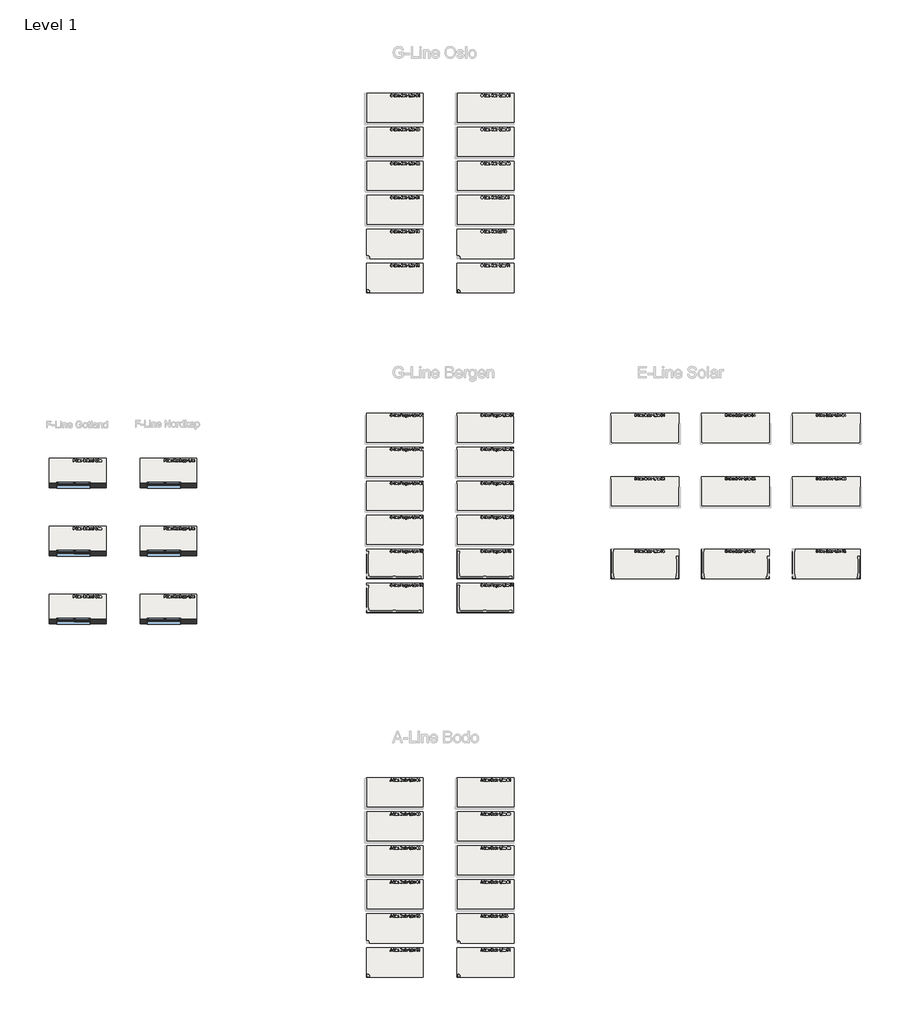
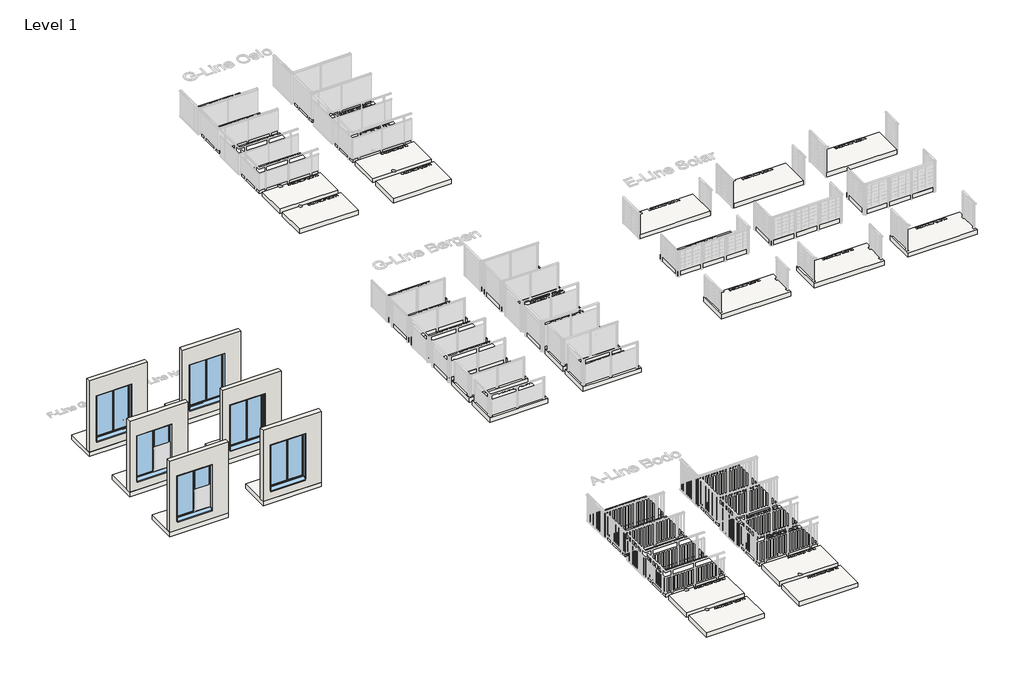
# One storey, part 1 of 66: 51 slabs, 6 walls, 6 windows.
"""IFC4 building model written with IfcOpenShell, lengths in millimetres."""

from ifc_helpers import new_model, si_unit, frame, origin, place, context, project, spatial, polyline, outline, extrude, faceted_brep, transform, mapped, element, save
from components import window_130mm_3dce3136

model = new_model("IFC4")

# Units and contexts
model_context = context("Model", 3, world=origin())
ifc_project = project(units=[si_unit("LENGTHUNIT", "METRE", prefix="MILLI")], contexts=[model_context])

# Site, building, storey
site = spatial("IfcSite", under=ifc_project)
building = spatial("IfcBuilding", under=site)
storey = spatial("IfcBuildingStorey", under=building, Name="Level 1", Elevation=0.0)

# Slabs
placement = place(None, origin())
element("IfcSlab", 1, ObjectType="Generic Floor - 400mm", at=placement, inside=storey, context=model_context, shape_type="SweptSolid", body=[
    extrude(outline(polyline([(6996.5263105, -4481.1184021), (4496.5263105, -4481.1184021), (4496.5263105, -3181.1184021), (6996.5263105, -3181.1184021), (6996.5263105, -4481.1184021)])), frame((0.0, 0.0, -200.0), z_axis=(0.0, 0.0, 1.0), x_axis=(1.0, 0.0, 0.0)), (0.0, 0.0, 1.0), 200.0),
])
element("IfcSlab", 2, ObjectType="Generic Floor - 400mm", at=placement, inside=storey, context=model_context, shape_type="SweptSolid", body=[
    extrude(outline(polyline([(6996.5263105, -2981.1184021), (4496.5263105, -2981.1184021), (4496.5263105, -1681.1184021), (6996.5263105, -1681.1184021), (6996.5263105, -2981.1184021)])), frame((0.0, 0.0, -200.0), z_axis=(0.0, 0.0, 1.0), x_axis=(1.0, 0.0, 0.0)), (0.0, 0.0, 1.0), 200.0),
])
element("IfcSlab", 3, ObjectType="Generic Floor - 400mm", at=placement, inside=storey, context=model_context, shape_type="SweptSolid", body=[
    extrude(outline(polyline([(6996.5263105, -1481.1184021), (4496.5263105, -1481.1184021), (4496.5263105, -181.1184021), (6996.5263105, -181.1184021), (6996.5263105, -1481.1184021)])), frame((0.0, 0.0, -200.0), z_axis=(0.0, 0.0, 1.0), x_axis=(1.0, 0.0, 0.0)), (0.0, 0.0, 1.0), 200.0),
])
element("IfcSlab", 4, ObjectType="Generic Floor - 400mm", at=placement, inside=storey, context=model_context, shape_type="SweptSolid", body=[
    extrude(outline(polyline([(6996.5263105, 18.8815979), (4496.5263105, 18.8815979), (4496.5263105, 1318.8815979), (6996.5263105, 1318.8815979), (6996.5263105, 18.8815979)])), frame((0.0, 0.0, -200.0), z_axis=(0.0, 0.0, 1.0), x_axis=(1.0, 0.0, 0.0)), (0.0, 0.0, 1.0), 200.0),
])
element("IfcSlab", 5, ObjectType="Generic Floor - 400mm", at=placement, inside=storey, context=model_context, shape_type="SweptSolid", body=[
    extrude(outline(polyline([(6996.5263105, 1518.8815979), (4496.5263105, 1518.8815979), (4496.5263105, 2818.8815979), (6996.5263105, 2818.8815979), (6996.5263105, 1518.8815979)])), frame((0.0, 0.0, -200.0), z_axis=(0.0, 0.0, 1.0), x_axis=(1.0, 0.0, 0.0)), (0.0, 0.0, 1.0), 200.0),
])
element("IfcSlab", 6, ObjectType="Generic Floor - 400mm", at=placement, inside=storey, context=model_context, shape_type="SweptSolid", body=[
    extrude(outline(polyline([(6996.5263105, 3018.8815979), (4496.5263105, 3018.8815979), (4496.5263105, 4318.8815979), (6996.5263105, 4318.8815979), (6996.5263105, 3018.8815979)])), frame((0.0, 0.0, -200.0), z_axis=(0.0, 0.0, 1.0), x_axis=(1.0, 0.0, 0.0)), (0.0, 0.0, 1.0), 200.0),
])
element("IfcSlab", 7, ObjectType="Generic Floor - 400mm", at=placement, inside=storey, context=model_context, shape_type="SweptSolid", body=[
    extrude(outline(polyline([(10996.5263105, -4481.1184021), (8496.5263105, -4481.1184021), (8496.5263105, -3181.1184021), (10996.5263105, -3181.1184021), (10996.5263105, -4481.1184021)])), frame((0.0, 0.0, -200.0), z_axis=(0.0, 0.0, 1.0), x_axis=(1.0, 0.0, 0.0)), (0.0, 0.0, 1.0), 200.0),
])
element("IfcSlab", 8, ObjectType="Generic Floor - 400mm", at=placement, inside=storey, context=model_context, shape_type="SweptSolid", body=[
    extrude(outline(polyline([(10996.5263105, -2981.1184021), (8496.5263105, -2981.1184021), (8496.5263105, -1681.1184021), (10996.5263105, -1681.1184021), (10996.5263105, -2981.1184021)])), frame((0.0, 0.0, -200.0), z_axis=(0.0, 0.0, 1.0), x_axis=(1.0, 0.0, 0.0)), (0.0, 0.0, 1.0), 200.0),
])
element("IfcSlab", 9, ObjectType="Generic Floor - 400mm", at=placement, inside=storey, context=model_context, shape_type="SweptSolid", body=[
    extrude(outline(polyline([(10996.5263105, -1481.1184021), (8496.5263105, -1481.1184021), (8496.5263105, -181.1184021), (10996.5263105, -181.1184021), (10996.5263105, -1481.1184021)])), frame((0.0, 0.0, -200.0), z_axis=(0.0, 0.0, 1.0), x_axis=(1.0, 0.0, 0.0)), (0.0, 0.0, 1.0), 200.0),
])
element("IfcSlab", 10, ObjectType="Generic Floor - 400mm", at=placement, inside=storey, context=model_context, shape_type="SweptSolid", body=[
    extrude(outline(polyline([(10996.5263105, 18.8815979), (8496.5263105, 18.8815979), (8496.5263105, 1318.8815979), (10996.5263105, 1318.8815979), (10996.5263105, 18.8815979)])), frame((0.0, 0.0, -200.0), z_axis=(0.0, 0.0, 1.0), x_axis=(1.0, 0.0, 0.0)), (0.0, 0.0, 1.0), 200.0),
])
element("IfcSlab", 11, ObjectType="Generic Floor - 400mm", at=placement, inside=storey, context=model_context, shape_type="SweptSolid", body=[
    extrude(outline(polyline([(10996.5263105, 1518.8815979), (8496.5263105, 1518.8815979), (8496.5263105, 2818.8815979), (10996.5263105, 2818.8815979), (10996.5263105, 1518.8815979)])), frame((0.0, 0.0, -200.0), z_axis=(0.0, 0.0, 1.0), x_axis=(1.0, 0.0, 0.0)), (0.0, 0.0, 1.0), 200.0),
])
element("IfcSlab", 12, ObjectType="Generic Floor - 400mm", at=placement, inside=storey, context=model_context, shape_type="SweptSolid", body=[
    extrude(outline(polyline([(10996.5263105, 3018.8815979), (8496.5263105, 3018.8815979), (8496.5263105, 4318.8815979), (10996.5263105, 4318.8815979), (10996.5263105, 3018.8815979)])), frame((0.0, 0.0, -200.0), z_axis=(0.0, 0.0, 1.0), x_axis=(1.0, 0.0, 0.0)), (0.0, 0.0, 1.0), 200.0),
])
element("IfcSlab", 13, ObjectType="Generic Floor - 400mm", at=placement, inside=storey, context=model_context, shape_type="SweptSolid", body=[
    extrude(outline(polyline([(-6994.9452678, -4969.7113559), (-9494.9452678, -4969.7113559), (-9494.9452678, -3669.7113559), (-6994.9452678, -3669.7113559), (-6994.9452678, -4969.7113559)])), frame((0.0, 0.0, -200.0), z_axis=(0.0, 0.0, 1.0), x_axis=(1.0, 0.0, 0.0)), (0.0, 0.0, 1.0), 200.0),
])
element("IfcSlab", 14, ObjectType="Generic Floor - 400mm", at=placement, inside=storey, context=model_context, shape_type="SweptSolid", body=[
    extrude(outline(polyline([(-6994.9452678, -1969.7113559), (-9494.9452678, -1969.7113559), (-9494.9452678, -669.7113559), (-6994.9452678, -669.7113559), (-6994.9452678, -1969.7113559)])), frame((0.0, 0.0, -200.0), z_axis=(0.0, 0.0, 1.0), x_axis=(1.0, 0.0, 0.0)), (0.0, 0.0, 1.0), 200.0),
])
element("IfcSlab", 15, ObjectType="Generic Floor - 400mm", at=placement, inside=storey, context=model_context, shape_type="SweptSolid", body=[
    extrude(outline(polyline([(-6994.9452678, 1030.2886441), (-9494.9452678, 1030.2886441), (-9494.9452678, 2330.2886441), (-6994.9452678, 2330.2886441), (-6994.9452678, 1030.2886441)])), frame((0.0, 0.0, -200.0), z_axis=(0.0, 0.0, 1.0), x_axis=(1.0, 0.0, 0.0)), (0.0, 0.0, 1.0), 200.0),
])
element("IfcSlab", 16, ObjectType="Generic Floor - 400mm", at=placement, inside=storey, context=model_context, shape_type="SweptSolid", body=[
    extrude(outline(polyline([(7004.0547322, 9630.2886441), (4504.0547322, 9630.2886441), (4504.0547322, 10930.2886441), (7004.0547322, 10930.2886441), (7004.0547322, 9630.2886441)])), frame((0.0, 0.0, -200.0), z_axis=(0.0, 0.0, 1.0), x_axis=(1.0, 0.0, 0.0)), (0.0, 0.0, 1.0), 200.0),
])
element("IfcSlab", 17, ObjectType="Generic Floor - 400mm", at=placement, inside=storey, context=model_context, shape_type="SweptSolid", body=[
    extrude(outline(polyline([(7004.0547322, 11130.2886441), (4504.0547322, 11130.2886441), (4504.0547322, 12430.2886441), (7004.0547322, 12430.2886441), (7004.0547322, 11130.2886441)])), frame((0.0, 0.0, -200.0), z_axis=(0.0, 0.0, 1.0), x_axis=(1.0, 0.0, 0.0)), (0.0, 0.0, 1.0), 200.0),
])
element("IfcSlab", 18, ObjectType="Generic Floor - 400mm", at=placement, inside=storey, context=model_context, shape_type="SweptSolid", body=[
    extrude(outline(polyline([(7004.0547322, 12630.2886441), (4504.0547322, 12630.2886441), (4504.0547322, 13930.2886441), (7004.0547322, 13930.2886441), (7004.0547322, 12630.2886441)])), frame((0.0, 0.0, -200.0), z_axis=(0.0, 0.0, 1.0), x_axis=(1.0, 0.0, 0.0)), (0.0, 0.0, 1.0), 200.0),
])
element("IfcSlab", 19, ObjectType="Generic Floor - 400mm", at=placement, inside=storey, context=model_context, shape_type="SweptSolid", body=[
    extrude(outline(polyline([(7004.0547322, 14130.2886441), (4504.0547322, 14130.2886441), (4504.0547322, 15430.2886441), (7004.0547322, 15430.2886441), (7004.0547322, 14130.2886441)])), frame((0.0, 0.0, -200.0), z_axis=(0.0, 0.0, 1.0), x_axis=(1.0, 0.0, 0.0)), (0.0, 0.0, 1.0), 200.0),
])
element("IfcSlab", 20, ObjectType="Generic Floor - 400mm", at=placement, inside=storey, context=model_context, shape_type="SweptSolid", body=[
    extrude(outline(polyline([(7004.0547322, 15630.2886441), (4504.0547322, 15630.2886441), (4504.0547322, 16930.2886441), (7004.0547322, 16930.2886441), (7004.0547322, 15630.2886441)])), frame((0.0, 0.0, -200.0), z_axis=(0.0, 0.0, 1.0), x_axis=(1.0, 0.0, 0.0)), (0.0, 0.0, 1.0), 200.0),
])
element("IfcSlab", 21, ObjectType="Generic Floor - 400mm", at=placement, inside=storey, context=model_context, shape_type="SweptSolid", body=[
    extrude(outline(polyline([(7004.0547322, 17130.2886441), (4504.0547322, 17130.2886441), (4504.0547322, 18430.2886441), (7004.0547322, 18430.2886441), (7004.0547322, 17130.2886441)])), frame((0.0, 0.0, -200.0), z_axis=(0.0, 0.0, 1.0), x_axis=(1.0, 0.0, 0.0)), (0.0, 0.0, 1.0), 200.0),
])
element("IfcSlab", 22, ObjectType="Generic Floor - 400mm", at=placement, inside=storey, context=model_context, shape_type="SweptSolid", body=[
    extrude(outline(polyline([(11004.0547322, 9630.2886441), (8504.0547322, 9630.2886441), (8504.0547322, 10930.2886441), (11004.0547322, 10930.2886441), (11004.0547322, 9630.2886441)])), frame((0.0, 0.0, -200.0), z_axis=(0.0, 0.0, 1.0), x_axis=(1.0, 0.0, 0.0)), (0.0, 0.0, 1.0), 200.0),
])
element("IfcSlab", 23, ObjectType="Generic Floor - 400mm", at=placement, inside=storey, context=model_context, shape_type="SweptSolid", body=[
    extrude(outline(polyline([(11004.0547322, 11130.2886441), (8504.0547322, 11130.2886441), (8504.0547322, 12430.2886441), (11004.0547322, 12430.2886441), (11004.0547322, 11130.2886441)])), frame((0.0, 0.0, -200.0), z_axis=(0.0, 0.0, 1.0), x_axis=(1.0, 0.0, 0.0)), (0.0, 0.0, 1.0), 200.0),
])
element("IfcSlab", 24, ObjectType="Generic Floor - 400mm", at=placement, inside=storey, context=model_context, shape_type="SweptSolid", body=[
    extrude(outline(polyline([(11004.0547322, 12630.2886441), (8504.0547322, 12630.2886441), (8504.0547322, 13930.2886441), (11004.0547322, 13930.2886441), (11004.0547322, 12630.2886441)])), frame((0.0, 0.0, -200.0), z_axis=(0.0, 0.0, 1.0), x_axis=(1.0, 0.0, 0.0)), (0.0, 0.0, 1.0), 200.0),
])
element("IfcSlab", 25, ObjectType="Generic Floor - 400mm", at=placement, inside=storey, context=model_context, shape_type="SweptSolid", body=[
    extrude(outline(polyline([(11004.0547322, 14130.2886441), (8504.0547322, 14130.2886441), (8504.0547322, 15430.2886441), (11004.0547322, 15430.2886441), (11004.0547322, 14130.2886441)])), frame((0.0, 0.0, -200.0), z_axis=(0.0, 0.0, 1.0), x_axis=(1.0, 0.0, 0.0)), (0.0, 0.0, 1.0), 200.0),
])
element("IfcSlab", 26, ObjectType="Generic Floor - 400mm", at=placement, inside=storey, context=model_context, shape_type="SweptSolid", body=[
    extrude(outline(polyline([(11004.0547322, 15630.2886441), (8504.0547322, 15630.2886441), (8504.0547322, 16930.2886441), (11004.0547322, 16930.2886441), (11004.0547322, 15630.2886441)])), frame((0.0, 0.0, -200.0), z_axis=(0.0, 0.0, 1.0), x_axis=(1.0, 0.0, 0.0)), (0.0, 0.0, 1.0), 200.0),
])
element("IfcSlab", 27, ObjectType="Generic Floor - 400mm", at=placement, inside=storey, context=model_context, shape_type="SweptSolid", body=[
    extrude(outline(polyline([(11004.0547322, 17130.2886441), (8504.0547322, 17130.2886441), (8504.0547322, 18430.2886441), (11004.0547322, 18430.2886441), (11004.0547322, 17130.2886441)])), frame((0.0, 0.0, -200.0), z_axis=(0.0, 0.0, 1.0), x_axis=(1.0, 0.0, 0.0)), (0.0, 0.0, 1.0), 200.0),
])
element("IfcSlab", 28, ObjectType="Generic Floor - 400mm", at=placement, inside=storey, context=model_context, shape_type="SweptSolid", body=[
    extrude(outline(polyline([(7004.0547322, -20569.7113559), (4504.0547322, -20569.7113559), (4504.0547322, -19269.7113559), (7004.0547322, -19269.7113559), (7004.0547322, -20569.7113559)])), frame((0.0, 0.0, -200.0), z_axis=(0.0, 0.0, 1.0), x_axis=(1.0, 0.0, 0.0)), (0.0, 0.0, 1.0), 200.0),
])
element("IfcSlab", 29, ObjectType="Generic Floor - 400mm", at=placement, inside=storey, context=model_context, shape_type="SweptSolid", body=[
    extrude(outline(polyline([(7004.0547322, -19069.7113559), (4504.0547322, -19069.7113559), (4504.0547322, -17769.7113559), (7004.0547322, -17769.7113559), (7004.0547322, -19069.7113559)])), frame((0.0, 0.0, -200.0), z_axis=(0.0, 0.0, 1.0), x_axis=(1.0, 0.0, 0.0)), (0.0, 0.0, 1.0), 200.0),
])
element("IfcSlab", 30, ObjectType="Generic Floor - 400mm", at=placement, inside=storey, context=model_context, shape_type="SweptSolid", body=[
    extrude(outline(polyline([(7004.0547322, -17569.7113559), (4504.0547322, -17569.7113559), (4504.0547322, -16269.7113559), (7004.0547322, -16269.7113559), (7004.0547322, -17569.7113559)])), frame((0.0, 0.0, -200.0), z_axis=(0.0, 0.0, 1.0), x_axis=(1.0, 0.0, 0.0)), (0.0, 0.0, 1.0), 200.0),
])
element("IfcSlab", 31, ObjectType="Generic Floor - 400mm", at=placement, inside=storey, context=model_context, shape_type="SweptSolid", body=[
    extrude(outline(polyline([(7004.0547322, -16069.7113559), (4504.0547322, -16069.7113559), (4504.0547322, -14769.7113559), (7004.0547322, -14769.7113559), (7004.0547322, -16069.7113559)])), frame((0.0, 0.0, -200.0), z_axis=(0.0, 0.0, 1.0), x_axis=(1.0, 0.0, 0.0)), (0.0, 0.0, 1.0), 200.0),
])
element("IfcSlab", 32, ObjectType="Generic Floor - 400mm", at=placement, inside=storey, context=model_context, shape_type="SweptSolid", body=[
    extrude(outline(polyline([(7004.0547322, -14569.7113559), (4504.0547322, -14569.7113559), (4504.0547322, -13269.7113559), (7004.0547322, -13269.7113559), (7004.0547322, -14569.7113559)])), frame((0.0, 0.0, -200.0), z_axis=(0.0, 0.0, 1.0), x_axis=(1.0, 0.0, 0.0)), (0.0, 0.0, 1.0), 200.0),
])
element("IfcSlab", 33, ObjectType="Generic Floor - 400mm", at=placement, inside=storey, context=model_context, shape_type="SweptSolid", body=[
    extrude(outline(polyline([(7004.0547322, -13069.7113559), (4504.0547322, -13069.7113559), (4504.0547322, -11769.7113559), (7004.0547322, -11769.7113559), (7004.0547322, -13069.7113559)])), frame((0.0, 0.0, -200.0), z_axis=(0.0, 0.0, 1.0), x_axis=(1.0, 0.0, 0.0)), (0.0, 0.0, 1.0), 200.0),
])
element("IfcSlab", 34, ObjectType="Generic Floor - 400mm", at=placement, inside=storey, context=model_context, shape_type="SweptSolid", body=[
    extrude(outline(polyline([(11004.0547322, -20569.7113559), (8504.0547322, -20569.7113559), (8504.0547322, -19269.7113559), (11004.0547322, -19269.7113559), (11004.0547322, -20569.7113559)])), frame((0.0, 0.0, -200.0), z_axis=(0.0, 0.0, 1.0), x_axis=(1.0, 0.0, 0.0)), (0.0, 0.0, 1.0), 200.0),
])
element("IfcSlab", 35, ObjectType="Generic Floor - 400mm", at=placement, inside=storey, context=model_context, shape_type="SweptSolid", body=[
    extrude(outline(polyline([(11004.0547322, -19069.7113559), (8504.0547322, -19069.7113559), (8504.0547322, -17769.7113559), (11004.0547322, -17769.7113559), (11004.0547322, -19069.7113559)])), frame((0.0, 0.0, -200.0), z_axis=(0.0, 0.0, 1.0), x_axis=(1.0, 0.0, 0.0)), (0.0, 0.0, 1.0), 200.0),
])
element("IfcSlab", 36, ObjectType="Generic Floor - 400mm", at=placement, inside=storey, context=model_context, shape_type="SweptSolid", body=[
    extrude(outline(polyline([(11004.0547322, -17569.7113559), (8504.0547322, -17569.7113559), (8504.0547322, -16269.7113559), (11004.0547322, -16269.7113559), (11004.0547322, -17569.7113559)])), frame((0.0, 0.0, -200.0), z_axis=(0.0, 0.0, 1.0), x_axis=(1.0, 0.0, 0.0)), (0.0, 0.0, 1.0), 200.0),
])
element("IfcSlab", 37, ObjectType="Generic Floor - 400mm", at=placement, inside=storey, context=model_context, shape_type="SweptSolid", body=[
    extrude(outline(polyline([(11004.0547322, -16069.7113559), (8504.0547322, -16069.7113559), (8504.0547322, -14769.7113559), (11004.0547322, -14769.7113559), (11004.0547322, -16069.7113559)])), frame((0.0, 0.0, -200.0), z_axis=(0.0, 0.0, 1.0), x_axis=(1.0, 0.0, 0.0)), (0.0, 0.0, 1.0), 200.0),
])
element("IfcSlab", 38, ObjectType="Generic Floor - 400mm", at=placement, inside=storey, context=model_context, shape_type="SweptSolid", body=[
    extrude(outline(polyline([(11004.0547322, -14569.7113559), (8504.0547322, -14569.7113559), (8504.0547322, -13269.7113559), (11004.0547322, -13269.7113559), (11004.0547322, -14569.7113559)])), frame((0.0, 0.0, -200.0), z_axis=(0.0, 0.0, 1.0), x_axis=(1.0, 0.0, 0.0)), (0.0, 0.0, 1.0), 200.0),
])
element("IfcSlab", 39, ObjectType="Generic Floor - 400mm", at=placement, inside=storey, context=model_context, shape_type="SweptSolid", body=[
    extrude(outline(polyline([(11004.0547322, -13069.7113559), (8504.0547322, -13069.7113559), (8504.0547322, -11769.7113559), (11004.0547322, -11769.7113559), (11004.0547322, -13069.7113559)])), frame((0.0, 0.0, -200.0), z_axis=(0.0, 0.0, 1.0), x_axis=(1.0, 0.0, 0.0)), (0.0, 0.0, 1.0), 200.0),
])
element("IfcSlab", 40, ObjectType="Generic Floor - 400mm", at=placement, inside=storey, context=model_context, shape_type="SweptSolid", body=[
    extrude(outline(polyline([(-2994.9452678, -4969.7113559), (-5494.9452678, -4969.7113559), (-5494.9452678, -3669.7113559), (-2994.9452678, -3669.7113559), (-2994.9452678, -4969.7113559)])), frame((0.0, 0.0, -200.0), z_axis=(0.0, 0.0, 1.0), x_axis=(1.0, 0.0, 0.0)), (0.0, 0.0, 1.0), 200.0),
])
element("IfcSlab", 41, ObjectType="Generic Floor - 400mm", at=placement, inside=storey, context=model_context, shape_type="SweptSolid", body=[
    extrude(outline(polyline([(-2994.9452678, -1969.7113559), (-5494.9452678, -1969.7113559), (-5494.9452678, -669.7113559), (-2994.9452678, -669.7113559), (-2994.9452678, -1969.7113559)])), frame((0.0, 0.0, -200.0), z_axis=(0.0, 0.0, 1.0), x_axis=(1.0, 0.0, 0.0)), (0.0, 0.0, 1.0), 200.0),
])
element("IfcSlab", 42, ObjectType="Generic Floor - 400mm", at=placement, inside=storey, context=model_context, shape_type="SweptSolid", body=[
    extrude(outline(polyline([(-2994.9452678, 1030.2886441), (-5494.9452678, 1030.2886441), (-5494.9452678, 2330.2886441), (-2994.9452678, 2330.2886441), (-2994.9452678, 1030.2886441)])), frame((0.0, 0.0, -200.0), z_axis=(0.0, 0.0, 1.0), x_axis=(1.0, 0.0, 0.0)), (0.0, 0.0, 1.0), 200.0),
])
element("IfcSlab", 43, ObjectType="Generic Floor - 400mm", at=placement, inside=storey, context=model_context, shape_type="SweptSolid", body=[
    extrude(outline(polyline([(18296.5263105, -2981.1184021), (15296.5263105, -2981.1184021), (15296.5263105, -1681.1184021), (18296.5263105, -1681.1184021), (18296.5263105, -2981.1184021)])), frame((0.0, 0.0, -200.0), z_axis=(0.0, 0.0, 1.0), x_axis=(1.0, 0.0, 0.0)), (0.0, 0.0, 1.0), 200.0),
])
element("IfcSlab", 44, ObjectType="Generic Floor - 400mm", at=placement, inside=storey, context=model_context, shape_type="SweptSolid", body=[
    extrude(outline(polyline([(18296.5263105, 218.8815979), (15296.5263105, 218.8815979), (15296.5263105, 1518.8815979), (18296.5263105, 1518.8815979), (18296.5263105, 218.8815979)])), frame((0.0, 0.0, -200.0), z_axis=(0.0, 0.0, 1.0), x_axis=(1.0, 0.0, 0.0)), (0.0, 0.0, 1.0), 200.0),
])
element("IfcSlab", 45, ObjectType="Generic Floor - 400mm", at=placement, inside=storey, context=model_context, shape_type="SweptSolid", body=[
    extrude(outline(polyline([(18296.5263105, 3018.8815979), (15296.5263105, 3018.8815979), (15296.5263105, 4318.8815979), (18296.5263105, 4318.8815979), (18296.5263105, 3018.8815979)])), frame((0.0, 0.0, -200.0), z_axis=(0.0, 0.0, 1.0), x_axis=(1.0, 0.0, 0.0)), (0.0, 0.0, 1.0), 200.0),
])
element("IfcSlab", 46, ObjectType="Generic Floor - 400mm", at=placement, inside=storey, context=model_context, shape_type="SweptSolid", body=[
    extrude(outline(polyline([(26296.5263105, -2981.1184021), (23296.5263105, -2981.1184021), (23296.5263105, -1681.1184021), (26296.5263105, -1681.1184021), (26296.5263105, -2981.1184021)])), frame((0.0, 0.0, -200.0), z_axis=(0.0, 0.0, 1.0), x_axis=(1.0, 0.0, 0.0)), (0.0, 0.0, 1.0), 200.0),
])
element("IfcSlab", 47, ObjectType="Generic Floor - 400mm", at=placement, inside=storey, context=model_context, shape_type="SweptSolid", body=[
    extrude(outline(polyline([(22296.5263105, -2981.1184021), (19296.5263105, -2981.1184021), (19296.5263105, -1681.1184021), (22296.5263105, -1681.1184021), (22296.5263105, -2981.1184021)])), frame((0.0, 0.0, -200.0), z_axis=(0.0, 0.0, 1.0), x_axis=(1.0, 0.0, 0.0)), (0.0, 0.0, 1.0), 200.0),
])
element("IfcSlab", 48, ObjectType="Generic Floor - 400mm", at=placement, inside=storey, context=model_context, shape_type="SweptSolid", body=[
    extrude(outline(polyline([(22296.5263105, 218.8815979), (19296.5263105, 218.8815979), (19296.5263105, 1518.8815979), (22296.5263105, 1518.8815979), (22296.5263105, 218.8815979)])), frame((0.0, 0.0, -200.0), z_axis=(0.0, 0.0, 1.0), x_axis=(1.0, 0.0, 0.0)), (0.0, 0.0, 1.0), 200.0),
])
element("IfcSlab", 49, ObjectType="Generic Floor - 400mm", at=placement, inside=storey, context=model_context, shape_type="SweptSolid", body=[
    extrude(outline(polyline([(22296.5263105, 3018.8815979), (19296.5263105, 3018.8815979), (19296.5263105, 4318.8815979), (22296.5263105, 4318.8815979), (22296.5263105, 3018.8815979)])), frame((0.0, 0.0, -200.0), z_axis=(0.0, 0.0, 1.0), x_axis=(1.0, 0.0, 0.0)), (0.0, 0.0, 1.0), 200.0),
])
element("IfcSlab", 50, ObjectType="Generic Floor - 400mm", at=placement, inside=storey, context=model_context, shape_type="SweptSolid", body=[
    extrude(outline(polyline([(26296.5263105, 218.8815979), (23296.5263105, 218.8815979), (23296.5263105, 1518.8815979), (26296.5263105, 1518.8815979), (26296.5263105, 218.8815979)])), frame((0.0, 0.0, -200.0), z_axis=(0.0, 0.0, 1.0), x_axis=(1.0, 0.0, 0.0)), (0.0, 0.0, 1.0), 200.0),
])
element("IfcSlab", 51, ObjectType="Generic Floor - 400mm", at=placement, inside=storey, context=model_context, shape_type="SweptSolid", body=[
    extrude(outline(polyline([(26296.5263105, 3018.8815979), (23296.5263105, 3018.8815979), (23296.5263105, 4318.8815979), (26296.5263105, 4318.8815979), (26296.5263105, 3018.8815979)])), frame((0.0, 0.0, -200.0), z_axis=(0.0, 0.0, 1.0), x_axis=(1.0, 0.0, 0.0)), (0.0, 0.0, 1.0), 200.0),
])

# Walls
element("IfcWall", 52, ObjectType="Generic - 200mm", at=placement, inside=storey, context=model_context, shape_type="Brep", body=[
    faceted_brep([(-5494.9452678, -4969.7113559, 0.0), (-2994.9452678, -4969.7113559, 0.0), (-2994.9452678, -4969.7113559, 3221.2135591), (-5494.9452678, -4969.7113559, 3221.2135591), (-5194.9452678, -4969.7113559, 2453.1900057), (-3674.9452678, -4969.7113559, 2453.1900057), (-3674.9452678, -4969.7113559, 389.564625), (-5194.9452678, -4969.7113559, 389.564625), (-2994.9452678, -4769.7113559, 0.0), (-5494.9452678, -4769.7113559, 0.0), (-5494.9452678, -4769.7113559, 3221.2135591), (-2994.9452678, -4769.7113559, 3221.2135591), (-3674.9452678, -4769.7113559, 2453.1900057), (-5194.9452678, -4769.7113559, 2453.1900057), (-5194.9452678, -4769.7113559, 443.1900057), (-3674.9452678, -4769.7113559, 443.1900057), (-5194.9452678, -4854.7113559, 443.1900057), (-3674.9452678, -4854.7113559, 443.1900057)], [[[0, 1, 2, 3], [4, 5, 6, 7]], [[8, 9, 10, 11], [12, 13, 14, 15]], [[1, 0, 9, 8]], [[2, 1, 8, 11]], [[3, 2, 11, 10]], [[0, 3, 10, 9]], [[4, 13, 12, 5]], [[16, 17, 15, 14]], [[5, 12, 15, 17, 6]], [[13, 4, 7, 16, 14]], [[17, 16, 7, 6]]]),
])
element("IfcWall", 53, ObjectType="Generic - 200mm", at=placement, inside=storey, context=model_context, shape_type="Brep", body=[
    faceted_brep([(-9494.9452678, -4969.7113559, 0.0), (-6994.9452678, -4969.7113559, 0.0), (-6994.9452678, -4969.7113559, 3221.2135591), (-9494.9452678, -4969.7113559, 3221.2135591), (-9194.9452678, -4969.7113559, 2453.1900057), (-7674.9452678, -4969.7113559, 2453.1900057), (-7674.9452678, -4969.7113559, 389.564625), (-9194.9452678, -4969.7113559, 389.564625), (-6994.9452678, -4769.7113559, 0.0), (-9494.9452678, -4769.7113559, 0.0), (-9494.9452678, -4769.7113559, 3221.2135591), (-6994.9452678, -4769.7113559, 3221.2135591), (-7674.9452678, -4769.7113559, 2453.1900057), (-9194.9452678, -4769.7113559, 2453.1900057), (-9194.9452678, -4769.7113559, 443.1900057), (-7674.9452678, -4769.7113559, 443.1900057), (-9194.9452678, -4854.7113559, 443.1900057), (-7674.9452678, -4854.7113559, 443.1900057)], [[[0, 1, 2, 3], [4, 5, 6, 7]], [[8, 9, 10, 11], [12, 13, 14, 15]], [[1, 0, 9, 8]], [[2, 1, 8, 11]], [[3, 2, 11, 10]], [[0, 3, 10, 9]], [[4, 13, 12, 5]], [[16, 17, 15, 14]], [[5, 12, 15, 17, 6]], [[13, 4, 7, 16, 14]], [[17, 16, 7, 6]]]),
])
element("IfcWall", 54, ObjectType="Generic - 200mm", at=placement, inside=storey, context=model_context, shape_type="Brep", body=[
    faceted_brep([(-5494.9452678, -1969.7113559, 0.0), (-2994.9452678, -1969.7113559, 0.0), (-2994.9452678, -1969.7113559, 3221.2135591), (-5494.9452678, -1969.7113559, 3221.2135591), (-5194.9452678, -1969.7113559, 2453.1900057), (-3674.9452678, -1969.7113559, 2453.1900057), (-3674.9452678, -1969.7113559, 389.564625), (-5194.9452678, -1969.7113559, 389.564625), (-2994.9452678, -1769.7113559, 0.0), (-5494.9452678, -1769.7113559, 0.0), (-5494.9452678, -1769.7113559, 3221.2135591), (-2994.9452678, -1769.7113559, 3221.2135591), (-3674.9452678, -1769.7113559, 2453.1900057), (-5194.9452678, -1769.7113559, 2453.1900057), (-5194.9452678, -1769.7113559, 443.1900057), (-3674.9452678, -1769.7113559, 443.1900057), (-5194.9452678, -1854.7113559, 443.1900057), (-3674.9452678, -1854.7113559, 443.1900057)], [[[0, 1, 2, 3], [4, 5, 6, 7]], [[8, 9, 10, 11], [12, 13, 14, 15]], [[1, 0, 9, 8]], [[2, 1, 8, 11]], [[3, 2, 11, 10]], [[0, 3, 10, 9]], [[4, 13, 12, 5]], [[16, 17, 15, 14]], [[5, 12, 15, 17, 6]], [[13, 4, 7, 16, 14]], [[17, 16, 7, 6]]]),
])
element("IfcWall", 55, ObjectType="Generic - 200mm", at=placement, inside=storey, context=model_context, shape_type="Brep", body=[
    faceted_brep([(-9494.9452678, -1969.7113559, 0.0), (-6994.9452678, -1969.7113559, 0.0), (-6994.9452678, -1969.7113559, 3221.2135591), (-9494.9452678, -1969.7113559, 3221.2135591), (-9194.9452678, -1969.7113559, 2453.1900057), (-7674.9452678, -1969.7113559, 2453.1900057), (-7674.9452678, -1969.7113559, 389.564625), (-9194.9452678, -1969.7113559, 389.564625), (-6994.9452678, -1769.7113559, 0.0), (-9494.9452678, -1769.7113559, 0.0), (-9494.9452678, -1769.7113559, 3221.2135591), (-6994.9452678, -1769.7113559, 3221.2135591), (-7674.9452678, -1769.7113559, 2453.1900057), (-9194.9452678, -1769.7113559, 2453.1900057), (-9194.9452678, -1769.7113559, 443.1900057), (-7674.9452678, -1769.7113559, 443.1900057), (-9194.9452678, -1854.7113559, 443.1900057), (-7674.9452678, -1854.7113559, 443.1900057)], [[[0, 1, 2, 3], [4, 5, 6, 7]], [[8, 9, 10, 11], [12, 13, 14, 15]], [[1, 0, 9, 8]], [[2, 1, 8, 11]], [[3, 2, 11, 10]], [[0, 3, 10, 9]], [[4, 13, 12, 5]], [[16, 17, 15, 14]], [[5, 12, 15, 17, 6]], [[13, 4, 7, 16, 14]], [[17, 16, 7, 6]]]),
])
element("IfcWall", 56, ObjectType="Generic - 200mm", at=placement, inside=storey, context=model_context, shape_type="Brep", body=[
    faceted_brep([(-5494.9452678, 1030.2886441, 0.0), (-2994.9452678, 1030.2886441, 0.0), (-2994.9452678, 1030.2886441, 3221.2135591), (-5494.9452678, 1030.2886441, 3221.2135591), (-5194.9452678, 1030.2886441, 2453.1900057), (-3674.9452678, 1030.2886441, 2453.1900057), (-3674.9452678, 1030.2886441, 389.564625), (-5194.9452678, 1030.2886441, 389.564625), (-2994.9452678, 1230.2886441, 0.0), (-5494.9452678, 1230.2886441, 0.0), (-5494.9452678, 1230.2886441, 3221.2135591), (-2994.9452678, 1230.2886441, 3221.2135591), (-3674.9452678, 1230.2886441, 2453.1900057), (-5194.9452678, 1230.2886441, 2453.1900057), (-5194.9452678, 1230.2886441, 443.1900057), (-3674.9452678, 1230.2886441, 443.1900057), (-5194.9452678, 1145.2886441, 443.1900057), (-3674.9452678, 1145.2886441, 443.1900057)], [[[0, 1, 2, 3], [4, 5, 6, 7]], [[8, 9, 10, 11], [12, 13, 14, 15]], [[1, 0, 9, 8]], [[2, 1, 8, 11]], [[3, 2, 11, 10]], [[0, 3, 10, 9]], [[4, 13, 12, 5]], [[16, 17, 15, 14]], [[5, 12, 15, 17, 6]], [[13, 4, 7, 16, 14]], [[17, 16, 7, 6]]]),
])
element("IfcWall", 57, ObjectType="Generic - 200mm", at=placement, inside=storey, context=model_context, shape_type="Brep", body=[
    faceted_brep([(-9494.9452678, 1030.2886441, 0.0), (-6994.9452678, 1030.2886441, 0.0), (-6994.9452678, 1030.2886441, 3221.2135591), (-9494.9452678, 1030.2886441, 3221.2135591), (-9194.9452678, 1030.2886441, 2453.1900057), (-7674.9452678, 1030.2886441, 2453.1900057), (-7674.9452678, 1030.2886441, 389.564625), (-9194.9452678, 1030.2886441, 389.564625), (-6994.9452678, 1230.2886441, 0.0), (-9494.9452678, 1230.2886441, 0.0), (-9494.9452678, 1230.2886441, 3221.2135591), (-6994.9452678, 1230.2886441, 3221.2135591), (-7674.9452678, 1230.2886441, 2453.1900057), (-9194.9452678, 1230.2886441, 2453.1900057), (-9194.9452678, 1230.2886441, 443.1900057), (-7674.9452678, 1230.2886441, 443.1900057), (-9194.9452678, 1145.2886441, 443.1900057), (-7674.9452678, 1145.2886441, 443.1900057)], [[[0, 1, 2, 3], [4, 5, 6, 7]], [[8, 9, 10, 11], [12, 13, 14, 15]], [[1, 0, 9, 8]], [[2, 1, 8, 11]], [[3, 2, 11, 10]], [[0, 3, 10, 9]], [[4, 13, 12, 5]], [[16, 17, 15, 14]], [[5, 12, 15, 17, 6]], [[13, 4, 7, 16, 14]], [[17, 16, 7, 6]]]),
])

# Windows
window_130mm_shape = window_130mm_3dce3136(model_context)
element("IfcWindow", 58, ObjectType="PihlaPRO MEK-A B : 130mm", at=placement, inside=storey, context=model_context, shape_type="MappedRepresentation", body=[
    mapped(window_130mm_shape, transform((-4174.9452678, -4869.7113559, -356.8099943), x_axis=(-1.0, 0.0, 0.0), y_axis=(0.0, -1.0, 0.0), z_axis=(0.0, 0.0, 1.0))),
])
element("IfcWindow", 59, ObjectType="PihlaPRO MEK-A B : 130mm", at=placement, inside=storey, context=model_context, shape_type="MappedRepresentation", body=[
    mapped(window_130mm_shape, transform((-8174.9452678, -4869.7113559, -356.8099943), x_axis=(-1.0, 0.0, 0.0), y_axis=(0.0, -1.0, 0.0), z_axis=(0.0, 0.0, 1.0))),
])
element("IfcWindow", 60, ObjectType="PihlaPRO MEK-A B : 130mm", at=placement, inside=storey, context=model_context, shape_type="MappedRepresentation", body=[
    mapped(window_130mm_shape, transform((-4174.9452678, -1869.7113559, -356.8099943), x_axis=(-1.0, 0.0, 0.0), y_axis=(0.0, -1.0, 0.0), z_axis=(0.0, 0.0, 1.0))),
])
element("IfcWindow", 61, ObjectType="PihlaPRO MEK-A B : 130mm", at=placement, inside=storey, context=model_context, shape_type="MappedRepresentation", body=[
    mapped(window_130mm_shape, transform((-8174.9452678, -1869.7113559, -356.8099943), x_axis=(-1.0, 0.0, 0.0), y_axis=(0.0, -1.0, 0.0), z_axis=(0.0, 0.0, 1.0))),
])
element("IfcWindow", 62, ObjectType="PihlaPRO MEK-A B : 130mm", at=placement, inside=storey, context=model_context, shape_type="MappedRepresentation", body=[
    mapped(window_130mm_shape, transform((-4174.9452678, 1130.2886441, -356.8099943), x_axis=(-1.0, 0.0, 0.0), y_axis=(0.0, -1.0, 0.0), z_axis=(0.0, 0.0, 1.0))),
])
element("IfcWindow", 63, ObjectType="PihlaPRO MEK-A B : 130mm", at=placement, inside=storey, context=model_context, shape_type="MappedRepresentation", body=[
    mapped(window_130mm_shape, transform((-8174.9452678, 1130.2886441, -356.8099943), x_axis=(-1.0, 0.0, 0.0), y_axis=(0.0, -1.0, 0.0), z_axis=(0.0, 0.0, 1.0))),
])

save(model, "model.ifc")
